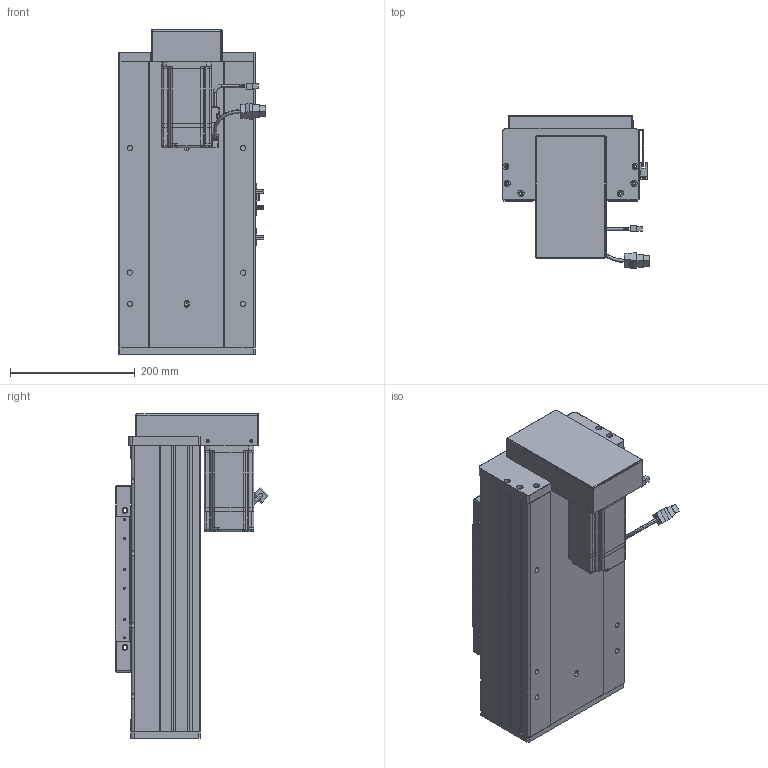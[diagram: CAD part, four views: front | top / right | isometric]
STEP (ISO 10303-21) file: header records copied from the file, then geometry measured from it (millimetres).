
FILE_DESCRIPTION (( 'STEP AP203' ), '1' );
FILE_NAME ('RY220F-L2525-300-BK.SLDASM_50.step', '2022-07-04T01:20:07', ( '' ), ( '' ), 'SwSTEP 2.0', 'SolidWorks 2016', '' );
FILE_SCHEMA (( 'CONFIG_CONTROL_DESIGN' ));
Length unit declared in the file: millimetre
Products named in the file (15): 覜茼ん672; RY220F-滅鳥奻裔; 滅袉蝶18-24; RY220F-672覜茼んえ; RY220F-祥凄詩湍-蛌殏-300_50; 怢湛750W_ECMA-CX0807ES; RY220F臏賑釱25-32佪裝; RY220狟殏萇儂假蚾啣; RY220F綴裔啣; RY220F蛌殏菁釱-300_50; RY220F-詩湍揤踡輸; RY220狟殏萇儂欶; 侐源滅袉蝶; RY220F-L2525-300-BK.SLDASM_50; RY220F-蛌殏奻裔啣-300_50
Assembly tree (21 placements, depth 2):
  RY220F-L2525-300-BK.SLDASM_50
    RY220F蛌殏菁釱-300_50
    RY220F-蛌殏奻裔啣-300_50  x2
    怢湛750W_ECMA-CX0807ES
    RY220F臏賑釱25-32佪裝
    RY220F-滅鳥奻裔
    滅袉蝶18-24  x3
    RY220F綴裔啣
    RY220F-祥凄詩湍-蛌殏-300_50
    RY220F-詩湍揤踡輸  x2
    覜茼ん672  x3
    RY220F-672覜茼んえ
    侐源滅袉蝶  x2
    RY220狟殏萇儂假蚾啣
    RY220狟殏萇儂欶
Bounding box: 237.27 x 247.24 x 521 mm (x, y, z)
Volume: 6344190.5 mm3; surface area: 1579074.4 mm2
Topology: 22 solids, 22 shells, 2101 faces, 5734 edges, 3619 vertices
Faces by surface type: cylinder 908, plane 906, cone 220, bspline 41, sphere 16, torus 10
Entity records: 64229 total; most frequent: CARTESIAN_POINT 17948, ORIENTED_EDGE 9442, DIRECTION 8967, EDGE_CURVE 4721, AXIS2_PLACEMENT_3D 3131, VERTEX_POINT 3061, VECTOR 2705, LINE 2705
